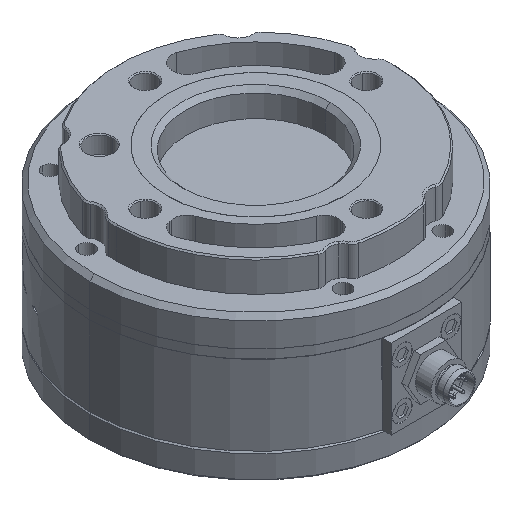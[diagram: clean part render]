
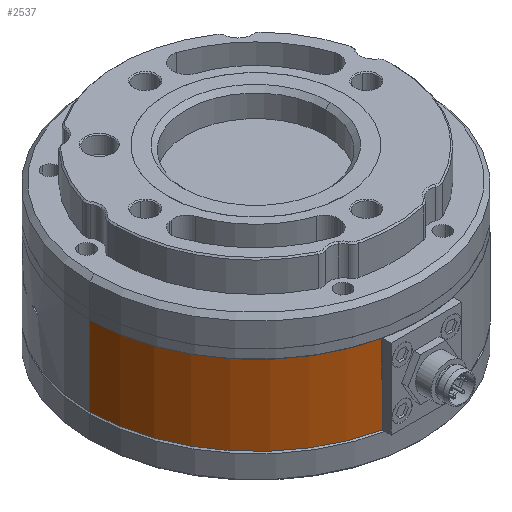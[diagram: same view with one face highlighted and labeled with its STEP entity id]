
A CAD part, isometric view. The second image highlights one B-rep face of the part: STEP entity #2537.
In plain terms, the highlighted cylindrical face has radius 37.5 mm (diameter 75 mm), a partial arc.
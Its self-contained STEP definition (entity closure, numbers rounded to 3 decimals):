
#405=CARTESIAN_POINT('Vertex',(-37.5,0.,9.)) ;
#408=CARTESIAN_POINT('Axis2P3D Location',(0.,0.,9.)) ;
#412=CARTESIAN_POINT('Vertex',(-8.166,-36.6,9.)) ;
#809=CARTESIAN_POINT('Line Origine',(-8.166,-36.6,5.)) ;
#813=CARTESIAN_POINT('Vertex',(-8.166,-36.6,1.)) ;
#2241=CARTESIAN_POINT('Axis2P3D Location',(0.,0.,1.)) ;
#2245=CARTESIAN_POINT('Vertex',(-8.,-36.637,1.)) ;
#2277=CARTESIAN_POINT('Axis2P3D Location',(0.,0.,-3.6)) ;
#2282=CARTESIAN_POINT('Line Origine',(-37.5,0.,-3.39)) ;
#2286=CARTESIAN_POINT('Vertex',(-37.5,0.,-9.)) ;
#2509=CARTESIAN_POINT('Axis2P3D Location',(0.,0.,-9.)) ;
#2513=CARTESIAN_POINT('Vertex',(-8.166,-36.6,-9.)) ;
#2516=CARTESIAN_POINT('Axis2P3D Location',(0.,0.,-9.)) ;
#2520=CARTESIAN_POINT('Vertex',(-8.,-36.637,-9.)) ;
#2523=CARTESIAN_POINT('Line Origine',(-8.,-36.637,-3.39)) ;
#409=DIRECTION('Axis2P3D Direction',(0.,0.,1.)) ;
#810=DIRECTION('Vector Direction',(0.,0.,-1.)) ;
#2242=DIRECTION('Axis2P3D Direction',(0.,0.,1.)) ;
#2278=DIRECTION('Axis2P3D Direction',(0.,0.,-1.)) ;
#2279=DIRECTION('Axis2P3D XDirection',(1.,0.,0.)) ;
#2283=DIRECTION('Vector Direction',(0.,0.,-1.)) ;
#2510=DIRECTION('Axis2P3D Direction',(0.,0.,-1.)) ;
#2517=DIRECTION('Axis2P3D Direction',(0.,0.,-1.)) ;
#2524=DIRECTION('Vector Direction',(0.,0.,-1.)) ;
#410=AXIS2_PLACEMENT_3D('Circle Axis2P3D',#408,#409,$) ;
#2243=AXIS2_PLACEMENT_3D('Circle Axis2P3D',#2241,#2242,$) ;
#2280=AXIS2_PLACEMENT_3D('Cylinder Axis2P3D',#2277,#2278,#2279) ;
#2511=AXIS2_PLACEMENT_3D('Circle Axis2P3D',#2509,#2510,$) ;
#2518=AXIS2_PLACEMENT_3D('Circle Axis2P3D',#2516,#2517,$) ;
#2529=ORIENTED_EDGE('',*,*,#2247,.F.) ;
#2530=ORIENTED_EDGE('',*,*,#815,.F.) ;
#2531=ORIENTED_EDGE('',*,*,#414,.F.) ;
#2532=ORIENTED_EDGE('',*,*,#2288,.T.) ;
#2533=ORIENTED_EDGE('',*,*,#2515,.F.) ;
#2534=ORIENTED_EDGE('',*,*,#2522,.F.) ;
#2535=ORIENTED_EDGE('',*,*,#2527,.F.) ;
#811=VECTOR('Line Direction',#810,1.) ;
#2284=VECTOR('Line Direction',#2283,1.) ;
#2525=VECTOR('Line Direction',#2524,1.) ;
#2537=ADVANCED_FACE('\X2\96F64EF651E04F554F53\X0\',(#2536),#2281,.T.) ;
#411=CIRCLE('generated circle',#410,37.5) ;
#2244=CIRCLE('generated circle',#2243,37.5) ;
#2512=CIRCLE('generated circle',#2511,37.5) ;
#2519=CIRCLE('generated circle',#2518,37.5) ;
#2281=CYLINDRICAL_SURFACE('generated cylinder',#2280,37.5) ;
#414=EDGE_CURVE('',#406,#413,#411,.T.) ;
#815=EDGE_CURVE('',#413,#814,#812,.T.) ;
#2247=EDGE_CURVE('',#814,#2246,#2244,.T.) ;
#2288=EDGE_CURVE('',#406,#2287,#2285,.T.) ;
#2515=EDGE_CURVE('',#2514,#2287,#2512,.T.) ;
#2522=EDGE_CURVE('',#2521,#2514,#2519,.T.) ;
#2527=EDGE_CURVE('',#2246,#2521,#2526,.T.) ;
#2528=EDGE_LOOP('',(#2529,#2530,#2531,#2532,#2533,#2534,#2535)) ;
#2536=FACE_OUTER_BOUND('',#2528,.T.) ;
#812=LINE('Line',#809,#811) ;
#2285=LINE('Line',#2282,#2284) ;
#2526=LINE('Line',#2523,#2525) ;
#406=VERTEX_POINT('',#405) ;
#413=VERTEX_POINT('',#412) ;
#814=VERTEX_POINT('',#813) ;
#2246=VERTEX_POINT('',#2245) ;
#2287=VERTEX_POINT('',#2286) ;
#2514=VERTEX_POINT('',#2513) ;
#2521=VERTEX_POINT('',#2520) ;
